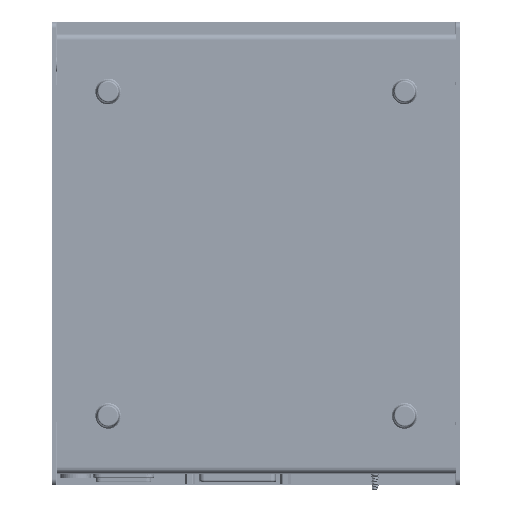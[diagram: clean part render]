
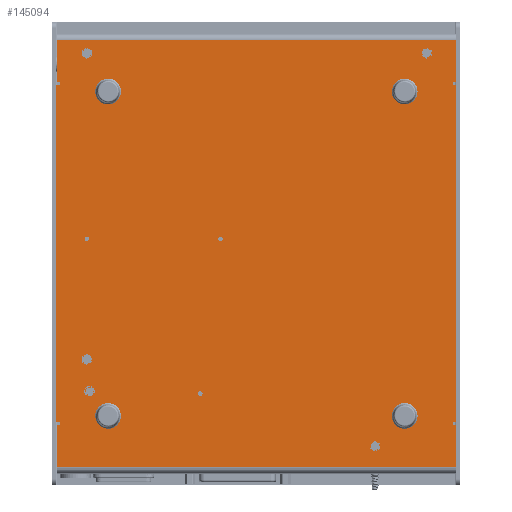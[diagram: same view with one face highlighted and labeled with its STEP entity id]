
A CAD part, front view. The second image highlights one B-rep face of the part: STEP entity #145094.
In plain terms, the highlighted planar face has unit normal (0, -1, 0).
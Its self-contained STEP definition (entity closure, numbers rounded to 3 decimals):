
#7297=FACE_BOUND('',#23990,.T.);
#7298=FACE_BOUND('',#23991,.T.);
#7299=FACE_BOUND('',#23992,.T.);
#7300=FACE_BOUND('',#23993,.T.);
#7301=FACE_BOUND('',#23994,.T.);
#7302=FACE_BOUND('',#23995,.T.);
#7303=FACE_BOUND('',#23996,.T.);
#7304=FACE_BOUND('',#23997,.T.);
#9536=PLANE('',#151488);
#15757=FACE_OUTER_BOUND('',#23989,.T.);
#23989=EDGE_LOOP('',(#118562,#118563,#118564,#118565,#118566,#118567,#118568,
#118569,#118570,#118571,#118572,#118573,#118574,#118575,#118576,#118577,
#118578,#118579,#118580,#118581));
#23990=EDGE_LOOP('',(#118582));
#23991=EDGE_LOOP('',(#118583));
#23992=EDGE_LOOP('',(#118584));
#23993=EDGE_LOOP('',(#118585));
#23994=EDGE_LOOP('',(#118586));
#23995=EDGE_LOOP('',(#118587));
#23996=EDGE_LOOP('',(#118588));
#23997=EDGE_LOOP('',(#118589));
#28855=CIRCLE('',#151453,0.083);
#28857=CIRCLE('',#151456,0.045);
#28859=CIRCLE('',#151459,0.069);
#28861=CIRCLE('',#151462,0.045);
#28863=CIRCLE('',#151465,0.083);
#28865=CIRCLE('',#151468,0.083);
#28867=CIRCLE('',#151471,0.045);
#28869=CIRCLE('',#151474,0.083);
#41955=LINE('',#244845,#55427);
#41956=LINE('',#244849,#55428);
#41961=LINE('',#244864,#55433);
#41962=LINE('',#244868,#55434);
#41979=LINE('',#244914,#55451);
#41985=LINE('',#244925,#55457);
#41989=LINE('',#244934,#55461);
#41994=LINE('',#244944,#55466);
#42005=LINE('',#245000,#55477);
#42008=LINE('',#245006,#55480);
#42011=LINE('',#245011,#55483);
#42013=LINE('',#245015,#55485);
#42016=LINE('',#245021,#55488);
#42019=LINE('',#245026,#55491);
#42021=LINE('',#245030,#55493);
#42024=LINE('',#245036,#55496);
#42027=LINE('',#245041,#55499);
#42029=LINE('',#245045,#55501);
#42032=LINE('',#245051,#55504);
#42035=LINE('',#245056,#55507);
#55427=VECTOR('',#166657,0.394);
#55428=VECTOR('',#166662,0.394);
#55433=VECTOR('',#166675,0.394);
#55434=VECTOR('',#166680,0.394);
#55451=VECTOR('',#166723,0.394);
#55457=VECTOR('',#166735,0.394);
#55461=VECTOR('',#166743,0.394);
#55466=VECTOR('',#166752,0.394);
#55477=VECTOR('',#166819,0.394);
#55480=VECTOR('',#166824,0.394);
#55483=VECTOR('',#166829,0.394);
#55485=VECTOR('',#166833,0.394);
#55488=VECTOR('',#166838,0.394);
#55491=VECTOR('',#166843,0.394);
#55493=VECTOR('',#166847,0.394);
#55496=VECTOR('',#166852,0.394);
#55499=VECTOR('',#166857,0.394);
#55501=VECTOR('',#166861,0.394);
#55504=VECTOR('',#166866,0.394);
#55507=VECTOR('',#166871,0.394);
#69782=VERTEX_POINT('',#244841);
#69783=VERTEX_POINT('',#244843);
#69784=VERTEX_POINT('',#244848);
#69789=VERTEX_POINT('',#244860);
#69790=VERTEX_POINT('',#244862);
#69791=VERTEX_POINT('',#244867);
#69807=VERTEX_POINT('',#244912);
#69809=VERTEX_POINT('',#244923);
#69811=VERTEX_POINT('',#244931);
#69812=VERTEX_POINT('',#244933);
#69814=VERTEX_POINT('',#244941);
#69815=VERTEX_POINT('',#244943);
#69817=VERTEX_POINT('',#244953);
#69819=VERTEX_POINT('',#244959);
#69821=VERTEX_POINT('',#244965);
#69823=VERTEX_POINT('',#244971);
#69825=VERTEX_POINT('',#244977);
#69827=VERTEX_POINT('',#244983);
#69829=VERTEX_POINT('',#244989);
#69831=VERTEX_POINT('',#244995);
#69832=VERTEX_POINT('',#244999);
#69834=VERTEX_POINT('',#245005);
#69836=VERTEX_POINT('',#245014);
#69838=VERTEX_POINT('',#245020);
#69840=VERTEX_POINT('',#245029);
#69842=VERTEX_POINT('',#245035);
#69844=VERTEX_POINT('',#245044);
#69846=VERTEX_POINT('',#245050);
#87014=EDGE_CURVE('',#69783,#69782,#41955,.T.);
#87015=EDGE_CURVE('',#69782,#69784,#41956,.T.);
#87023=EDGE_CURVE('',#69790,#69789,#41961,.T.);
#87024=EDGE_CURVE('',#69789,#69791,#41962,.T.);
#87048=EDGE_CURVE('',#69807,#69783,#41979,.T.);
#87054=EDGE_CURVE('',#69809,#69790,#41985,.T.);
#87058=EDGE_CURVE('',#69811,#69812,#41989,.T.);
#87063=EDGE_CURVE('',#69814,#69815,#41994,.T.);
#87068=EDGE_CURVE('',#69817,#69817,#28855,.T.);
#87071=EDGE_CURVE('',#69819,#69819,#28857,.T.);
#87074=EDGE_CURVE('',#69821,#69821,#28859,.T.);
#87077=EDGE_CURVE('',#69823,#69823,#28861,.T.);
#87080=EDGE_CURVE('',#69825,#69825,#28863,.T.);
#87083=EDGE_CURVE('',#69827,#69827,#28865,.T.);
#87086=EDGE_CURVE('',#69829,#69829,#28867,.T.);
#87089=EDGE_CURVE('',#69831,#69831,#28869,.T.);
#87090=EDGE_CURVE('',#69814,#69832,#42005,.T.);
#87093=EDGE_CURVE('',#69832,#69834,#42008,.T.);
#87096=EDGE_CURVE('',#69834,#69784,#42011,.T.);
#87098=EDGE_CURVE('',#69807,#69836,#42013,.T.);
#87101=EDGE_CURVE('',#69838,#69836,#42016,.T.);
#87104=EDGE_CURVE('',#69812,#69838,#42019,.T.);
#87106=EDGE_CURVE('',#69811,#69840,#42021,.T.);
#87109=EDGE_CURVE('',#69840,#69842,#42024,.T.);
#87112=EDGE_CURVE('',#69842,#69791,#42027,.T.);
#87114=EDGE_CURVE('',#69809,#69844,#42029,.T.);
#87117=EDGE_CURVE('',#69846,#69844,#42032,.T.);
#87120=EDGE_CURVE('',#69815,#69846,#42035,.T.);
#118562=ORIENTED_EDGE('',*,*,#87014,.F.);
#118563=ORIENTED_EDGE('',*,*,#87048,.F.);
#118564=ORIENTED_EDGE('',*,*,#87098,.T.);
#118565=ORIENTED_EDGE('',*,*,#87101,.F.);
#118566=ORIENTED_EDGE('',*,*,#87104,.F.);
#118567=ORIENTED_EDGE('',*,*,#87058,.F.);
#118568=ORIENTED_EDGE('',*,*,#87106,.T.);
#118569=ORIENTED_EDGE('',*,*,#87109,.T.);
#118570=ORIENTED_EDGE('',*,*,#87112,.T.);
#118571=ORIENTED_EDGE('',*,*,#87024,.F.);
#118572=ORIENTED_EDGE('',*,*,#87023,.F.);
#118573=ORIENTED_EDGE('',*,*,#87054,.F.);
#118574=ORIENTED_EDGE('',*,*,#87114,.T.);
#118575=ORIENTED_EDGE('',*,*,#87117,.F.);
#118576=ORIENTED_EDGE('',*,*,#87120,.F.);
#118577=ORIENTED_EDGE('',*,*,#87063,.F.);
#118578=ORIENTED_EDGE('',*,*,#87090,.T.);
#118579=ORIENTED_EDGE('',*,*,#87093,.T.);
#118580=ORIENTED_EDGE('',*,*,#87096,.T.);
#118581=ORIENTED_EDGE('',*,*,#87015,.F.);
#118582=ORIENTED_EDGE('',*,*,#87089,.F.);
#118583=ORIENTED_EDGE('',*,*,#87086,.F.);
#118584=ORIENTED_EDGE('',*,*,#87083,.F.);
#118585=ORIENTED_EDGE('',*,*,#87080,.F.);
#118586=ORIENTED_EDGE('',*,*,#87077,.F.);
#118587=ORIENTED_EDGE('',*,*,#87074,.F.);
#118588=ORIENTED_EDGE('',*,*,#87071,.F.);
#118589=ORIENTED_EDGE('',*,*,#87068,.F.);
#145094=ADVANCED_FACE('',(#15757,#7297,#7298,#7299,#7300,#7301,#7302,#7303,
#7304),#9536,.F.);
#151453=AXIS2_PLACEMENT_3D('',#244955,#166766,#166767);
#151456=AXIS2_PLACEMENT_3D('',#244961,#166773,#166774);
#151459=AXIS2_PLACEMENT_3D('',#244967,#166780,#166781);
#151462=AXIS2_PLACEMENT_3D('',#244973,#166787,#166788);
#151465=AXIS2_PLACEMENT_3D('',#244979,#166794,#166795);
#151468=AXIS2_PLACEMENT_3D('',#244985,#166801,#166802);
#151471=AXIS2_PLACEMENT_3D('',#244991,#166808,#166809);
#151474=AXIS2_PLACEMENT_3D('',#244997,#166815,#166816);
#151488=AXIS2_PLACEMENT_3D('',#245059,#166875,#166876);
#166657=DIRECTION('',(-1.,0.,0.));
#166662=DIRECTION('',(0.,0.,1.));
#166675=DIRECTION('',(1.,0.,0.));
#166680=DIRECTION('',(0.,0.,-1.));
#166723=DIRECTION('',(0.,0.,-1.));
#166735=DIRECTION('',(0.,0.,1.));
#166743=DIRECTION('',(0.,0.,-1.));
#166752=DIRECTION('',(0.,0.,1.));
#166766=DIRECTION('center_axis',(0.,-1.,0.));
#166767=DIRECTION('ref_axis',(1.,0.,0.));
#166773=DIRECTION('center_axis',(0.,-1.,0.));
#166774=DIRECTION('ref_axis',(1.,0.,0.));
#166780=DIRECTION('center_axis',(0.,-1.,0.));
#166781=DIRECTION('ref_axis',(1.,0.,0.));
#166787=DIRECTION('center_axis',(0.,-1.,0.));
#166788=DIRECTION('ref_axis',(1.,0.,0.));
#166794=DIRECTION('center_axis',(0.,-1.,0.));
#166795=DIRECTION('ref_axis',(1.,0.,0.));
#166801=DIRECTION('center_axis',(0.,-1.,0.));
#166802=DIRECTION('ref_axis',(1.,0.,0.));
#166808=DIRECTION('center_axis',(0.,-1.,0.));
#166809=DIRECTION('ref_axis',(1.,0.,0.));
#166815=DIRECTION('center_axis',(0.,-1.,0.));
#166816=DIRECTION('ref_axis',(1.,0.,0.));
#166819=DIRECTION('',(1.,0.,0.));
#166824=DIRECTION('',(0.,0.,-1.));
#166829=DIRECTION('',(-1.,0.,0.));
#166833=DIRECTION('',(-1.,0.,0.));
#166838=DIRECTION('',(0.,0.,-1.));
#166843=DIRECTION('',(-1.,0.,0.));
#166847=DIRECTION('',(-1.,0.,0.));
#166852=DIRECTION('',(0.,0.,1.));
#166857=DIRECTION('',(1.,0.,0.));
#166861=DIRECTION('',(1.,0.,0.));
#166866=DIRECTION('',(0.,0.,1.));
#166871=DIRECTION('',(1.,0.,0.));
#166875=DIRECTION('center_axis',(0.,1.,0.));
#166876=DIRECTION('ref_axis',(1.,0.,0.));
#244841=CARTESIAN_POINT('',(0.,0.,-8.364));
#244843=CARTESIAN_POINT('',(7.76,0.,-8.364));
#244845=CARTESIAN_POINT('',(5.82,0.,-8.364));
#244848=CARTESIAN_POINT('',(0.,0.,-7.544));
#244849=CARTESIAN_POINT('',(0.,0.,-8.484));
#244860=CARTESIAN_POINT('',(7.76,0.,-0.064));
#244862=CARTESIAN_POINT('',(0.,0.,-0.064));
#244864=CARTESIAN_POINT('',(1.94,0.,-0.064));
#244867=CARTESIAN_POINT('',(7.76,0.,-0.884));
#244868=CARTESIAN_POINT('',(7.76,0.,0.056));
#244912=CARTESIAN_POINT('',(7.76,0.,-7.544));
#244914=CARTESIAN_POINT('',(7.76,0.,-7.544));
#244923=CARTESIAN_POINT('',(0.,0.,-0.884));
#244925=CARTESIAN_POINT('',(0.,0.,-0.884));
#244931=CARTESIAN_POINT('',(7.765,0.,-0.944));
#244933=CARTESIAN_POINT('',(7.765,0.,-7.484));
#244934=CARTESIAN_POINT('',(7.765,0.,-0.944));
#244941=CARTESIAN_POINT('',(-0.005,0.,-7.484));
#244943=CARTESIAN_POINT('',(-0.005,0.,-0.944));
#244944=CARTESIAN_POINT('',(-0.005,0.,-7.484));
#244953=CARTESIAN_POINT('',(0.504,0.,-6.269));
#244955=CARTESIAN_POINT('Origin',(0.587,0.,-6.269));
#244959=CARTESIAN_POINT('',(0.542,0.,-3.926));
#244961=CARTESIAN_POINT('Origin',(0.587,0.,-3.926));
#244965=CARTESIAN_POINT('',(0.569,0.,-6.884));
#244967=CARTESIAN_POINT('Origin',(0.638,0.,-6.884));
#244971=CARTESIAN_POINT('',(2.745,0.,-6.931));
#244973=CARTESIAN_POINT('Origin',(2.79,0.,-6.931));
#244977=CARTESIAN_POINT('',(7.104,0.,-0.319));
#244979=CARTESIAN_POINT('Origin',(7.187,0.,-0.319));
#244983=CARTESIAN_POINT('',(6.099,0.,-7.95));
#244985=CARTESIAN_POINT('Origin',(6.182,0.,-7.95));
#244989=CARTESIAN_POINT('',(3.141,0.,-3.926));
#244991=CARTESIAN_POINT('Origin',(3.185,0.,-3.926));
#244995=CARTESIAN_POINT('',(0.504,0.,-0.319));
#244997=CARTESIAN_POINT('Origin',(0.587,0.,-0.319));
#244999=CARTESIAN_POINT('',(0.06,0.,-7.484));
#245000=CARTESIAN_POINT('',(0.05,0.,-7.484));
#245005=CARTESIAN_POINT('',(0.06,0.,-7.544));
#245006=CARTESIAN_POINT('',(0.06,0.,-7.484));
#245011=CARTESIAN_POINT('',(0.06,0.,-7.544));
#245014=CARTESIAN_POINT('',(7.695,0.,-7.544));
#245015=CARTESIAN_POINT('',(7.76,0.,-7.544));
#245020=CARTESIAN_POINT('',(7.695,0.,-7.484));
#245021=CARTESIAN_POINT('',(7.695,0.,-7.484));
#245026=CARTESIAN_POINT('',(7.765,0.,-7.484));
#245029=CARTESIAN_POINT('',(7.7,0.,-0.944));
#245030=CARTESIAN_POINT('',(7.71,0.,-0.944));
#245035=CARTESIAN_POINT('',(7.7,0.,-0.884));
#245036=CARTESIAN_POINT('',(7.7,0.,-0.944));
#245041=CARTESIAN_POINT('',(7.7,0.,-0.884));
#245044=CARTESIAN_POINT('',(0.065,0.,-0.884));
#245045=CARTESIAN_POINT('',(0.,0.,-0.884));
#245050=CARTESIAN_POINT('',(0.065,0.,-0.944));
#245051=CARTESIAN_POINT('',(0.065,0.,-0.944));
#245056=CARTESIAN_POINT('',(-0.005,0.,-0.944));
#245059=CARTESIAN_POINT('Origin',(3.88,0.,-4.214));
